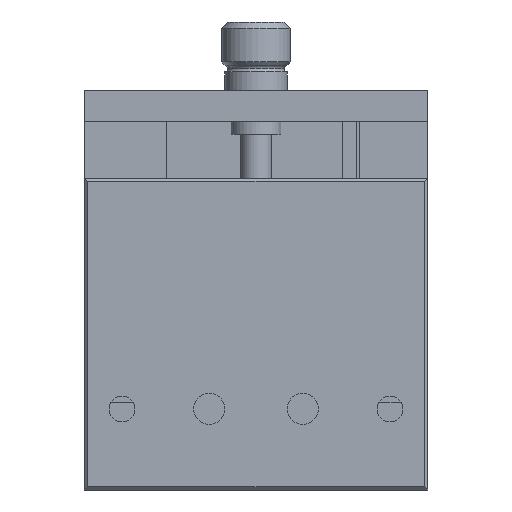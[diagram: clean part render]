
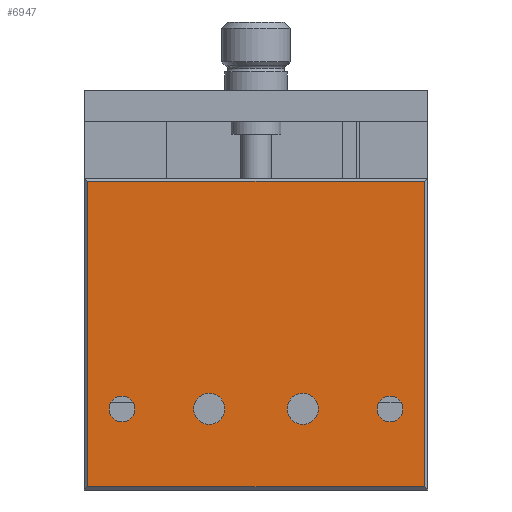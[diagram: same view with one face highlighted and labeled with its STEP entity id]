
A CAD part, front view. The second image highlights one B-rep face of the part: STEP entity #6947.
In plain terms, the highlighted planar face has unit normal (0, -1, 0).
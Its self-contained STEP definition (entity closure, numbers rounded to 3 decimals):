
#6067=CARTESIAN_POINT('',(-17.5,0.0,13.));
#6068=VERTEX_POINT('',#6067);
#6069=CARTESIAN_POINT('',(-20.0,0.0,13.));
#6070=DIRECTION('',(0.0,1.0,0.0));
#6071=DIRECTION('',(1.0,0.0,0.0));
#6072=AXIS2_PLACEMENT_3D('',#6069,#6070,#6071);
#6073=CIRCLE('',#6072,2.5);
#6074=EDGE_CURVE('',#6068,#6068,#6073,.T.);
#6095=CARTESIAN_POINT('',(-32.5,0.0,13.));
#6096=VERTEX_POINT('',#6095);
#6097=CARTESIAN_POINT('',(-35.,0.0,13.));
#6098=DIRECTION('',(0.0,1.0,0.0));
#6099=DIRECTION('',(1.0,0.0,0.0));
#6100=AXIS2_PLACEMENT_3D('',#6097,#6098,#6099);
#6101=CIRCLE('',#6100,2.5);
#6102=EDGE_CURVE('',#6096,#6096,#6101,.T.);
#6123=CARTESIAN_POINT('',(-3.933,0.0,13.));
#6124=VERTEX_POINT('',#6123);
#6125=CARTESIAN_POINT('',(-6.,0.0,13.));
#6126=DIRECTION('',(0.0,1.0,0.0));
#6127=DIRECTION('',(1.0,0.0,0.0));
#6128=AXIS2_PLACEMENT_3D('',#6125,#6126,#6127);
#6129=CIRCLE('',#6128,2.067);
#6130=EDGE_CURVE('',#6124,#6124,#6129,.T.);
#6151=CARTESIAN_POINT('',(-46.933,0.0,13.));
#6152=VERTEX_POINT('',#6151);
#6153=CARTESIAN_POINT('',(-49.,0.0,13.));
#6154=DIRECTION('',(0.0,1.0,0.0));
#6155=DIRECTION('',(1.0,0.0,0.0));
#6156=AXIS2_PLACEMENT_3D('',#6153,#6154,#6155);
#6157=CIRCLE('',#6156,2.067);
#6158=EDGE_CURVE('',#6152,#6152,#6157,.T.);
#6737=CARTESIAN_POINT('',(-0.5,0.,0.5));
#6738=VERTEX_POINT('',#6737);
#6745=CARTESIAN_POINT('',(-54.5,0.,0.5));
#6746=VERTEX_POINT('',#6745);
#6747=CARTESIAN_POINT('',(-54.5,0.0,0.5));
#6748=DIRECTION('',(1.0,0.0,0.0));
#6749=VECTOR('',#6748,54.0);
#6750=LINE('',#6747,#6749);
#6751=EDGE_CURVE('',#6746,#6738,#6750,.T.);
#6876=CARTESIAN_POINT('',(-54.5,0.,49.5));
#6877=VERTEX_POINT('',#6876);
#6886=CARTESIAN_POINT('',(-54.5,0.,49.5));
#6887=DIRECTION('',(0.0,0.0,-1.0));
#6888=VECTOR('',#6887,49.0);
#6889=LINE('',#6886,#6888);
#6890=EDGE_CURVE('',#6877,#6746,#6889,.T.);
#6902=CARTESIAN_POINT('',(-0.5,0.,49.5));
#6903=VERTEX_POINT('',#6902);
#6910=CARTESIAN_POINT('',(-0.5,0.,0.5));
#6911=DIRECTION('',(0.0,0.0,1.0));
#6912=VECTOR('',#6911,49.0);
#6913=LINE('',#6910,#6912);
#6914=EDGE_CURVE('',#6738,#6903,#6913,.T.);
#6919=CARTESIAN_POINT('',(0.0,0.0,50.0));
#6920=DIRECTION('',(0.0,1.0,0.0));
#6921=DIRECTION('',(0.0,0.0,1.0));
#6922=AXIS2_PLACEMENT_3D('',#6919,#6920,#6921);
#6923=PLANE('',#6922);
#6924=CARTESIAN_POINT('',(-0.5,0.0,49.5));
#6925=DIRECTION('',(-1.0,0.0,0.0));
#6926=VECTOR('',#6925,54.0);
#6927=LINE('',#6924,#6926);
#6928=EDGE_CURVE('',#6903,#6877,#6927,.T.);
#6929=ORIENTED_EDGE('',*,*,#6928,.T.);
#6930=ORIENTED_EDGE('',*,*,#6890,.T.);
#6931=ORIENTED_EDGE('',*,*,#6751,.T.);
#6932=ORIENTED_EDGE('',*,*,#6914,.T.);
#6933=EDGE_LOOP('',(#6929,#6930,#6931,#6932));
#6934=FACE_OUTER_BOUND('',#6933,.T.);
#6935=ORIENTED_EDGE('',*,*,#6074,.T.);
#6936=EDGE_LOOP('',(#6935));
#6937=FACE_BOUND('',#6936,.T.);
#6938=ORIENTED_EDGE('',*,*,#6102,.T.);
#6939=EDGE_LOOP('',(#6938));
#6940=FACE_BOUND('',#6939,.T.);
#6941=ORIENTED_EDGE('',*,*,#6130,.T.);
#6942=EDGE_LOOP('',(#6941));
#6943=FACE_BOUND('',#6942,.T.);
#6944=ORIENTED_EDGE('',*,*,#6158,.T.);
#6945=EDGE_LOOP('',(#6944));
#6946=FACE_BOUND('',#6945,.T.);
#6947=ADVANCED_FACE('',(#6934,#6937,#6940,#6943,#6946),#6923,.F.);
